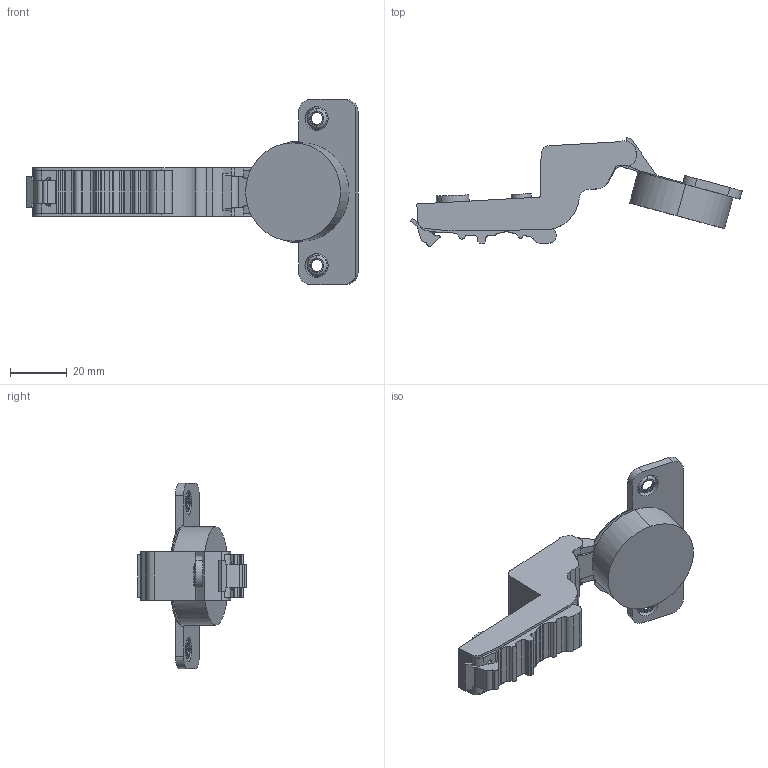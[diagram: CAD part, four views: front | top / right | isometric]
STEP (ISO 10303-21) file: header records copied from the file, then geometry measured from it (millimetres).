
FILE_DESCRIPTION (( 'STEP AP203' ), '1' );
FILE_NAME ('C82C677FA-DTC 3D open.STEP', '2024-07-10T09:06:19', ( '微软用户' ), ( '微软中国' ), 'SwSTEP 2.0', 'SolidWorks 2021', '' );
FILE_SCHEMA (( 'CONFIG_CONTROL_DESIGN' ));
Length unit declared in the file: millimetre
Products named in the file (1): C82C677FA-DTC 3D open
Bounding box: 117.51 x 38.46 x 65.56 mm (x, y, z)
Volume: 36134.7 mm3; surface area: 12057.5 mm2
Topology: 1 solids, 1 shells, 234 faces, 656 edges, 428 vertices
Faces by surface type: cylinder 98, plane 96, torus 24, cone 8, bspline 8
Entity records: 7902 total; most frequent: CARTESIAN_POINT 1712, ORIENTED_EDGE 1312, DIRECTION 1302, EDGE_CURVE 656, AXIS2_PLACEMENT_3D 478, VERTEX_POINT 428, VECTOR 346, LINE 346
